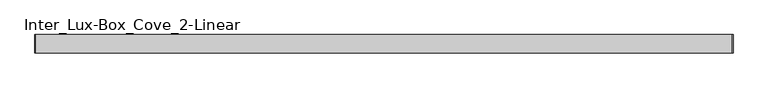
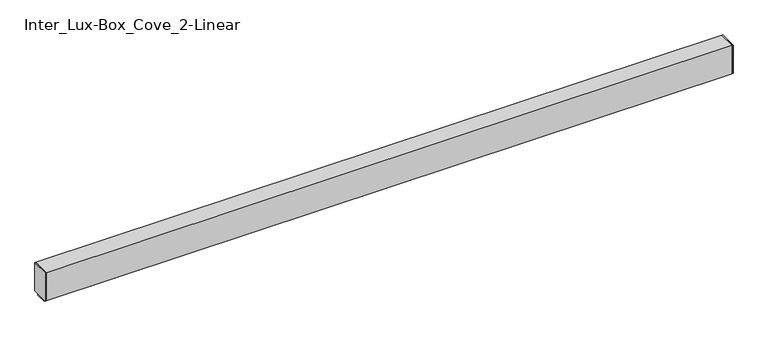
"""IFC4 building model written with IfcOpenShell, lengths in millimetres: light fixture geometry, Inter_Lux-Box_Cove_2-Linear : WG-BC2-96."""

from ifc_helpers import new_model, si_unit, frame, origin, origin_with_axes, place, context, project, spatial, polyline, outline, extrude, source, transform, mapped, element, save


def inter_lux_box_cove_2_linear_d6b674f3(model_context):
    return source(origin(), model_context, "Body", "SweptSolid", [
        extrude(outline(polyline([(28.5291428, 52.399339), (27.1145076, 53.3286003), (22.7583024, 99.2666021), (24.0177286, 99.9740852), (28.5291428, 52.399339)])), frame((-1216.025, 0.0, 0.0), z_axis=(1.0, 0.0, 0.0), x_axis=(0.0, 1.0, 0.0)), (0.0, 0.0, 1.0), 2432.05),
        extrude(outline(polyline([(1216.025, 19.05), (1216.025, -19.05), (-1216.025, -19.05), (-1216.025, 19.05), (1216.025, 19.05)])), origin_with_axes(), (0.0, 0.0, 1.0), 10.4825619),
        extrude(outline(polyline([(1219.2, 31.75), (1219.2, -31.75), (1216.025, -31.75), (1216.025, 31.75), (1219.2, 31.75)])), frame((0.0, 0.0, 10.31875), z_axis=(0.0, 0.0, 1.0), x_axis=(1.0, 0.0, 0.0)), (0.0, 0.0, 1.0), 105.3520075),
        extrude(outline(polyline([(29.52626, 51.7443416), (31.75, 13.49375), (30.1583865, 13.49375), (27.929581, 51.1979954), (8.296285, 64.0949328), (8.296285, 76.1922878), (12.3594897, 95.308163), (27.0595865, 103.5654863), (27.0595865, 112.4957575), (28.5835865, 112.4957575), (28.5835865, 102.5389575), (13.8539227, 94.2645637), (9.947285, 75.8852783), (9.947285, 64.605596), (29.52626, 51.7443416)])), frame((-1216.025, 0.0, 0.0), z_axis=(1.0, 0.0, 0.0), x_axis=(0.0, 1.0, 0.0)), (0.0, 0.0, 1.0), 2432.05),
        extrude(outline(polyline([(-31.75, 115.6707575), (31.75, 115.6707575), (31.75, 112.4957575), (27.0595865, 112.4957575), (27.0595865, 103.8140045), (23.8845865, 103.8140045), (23.8845865, 112.4957575), (-28.575, 112.4957575), (-28.575, 13.49375), (31.75, 13.49375), (31.75, 10.31875), (-31.75, 10.31875), (-31.75, 115.6707575)])), frame((-1216.025, 0.0, 0.0), z_axis=(1.0, 0.0, 0.0), x_axis=(0.0, 1.0, 0.0)), (0.0, 0.0, 1.0), 2432.05),
        extrude(outline(polyline([(-1219.2, -31.75), (-1219.2, 31.75), (-1216.025, 31.75), (-1216.025, -31.75), (-1219.2, -31.75)])), frame((0.0, 0.0, 10.31875), z_axis=(0.0, 0.0, 1.0), x_axis=(1.0, 0.0, 0.0)), (0.0, 0.0, 1.0), 105.3520075),
    ])


if __name__ == "__main__":
    model = new_model("IFC4")
    model_context = context("Model", 3, world=origin())
    ifc_project = project(units=[si_unit("LENGTHUNIT", "METRE", prefix="MILLI")], contexts=[model_context])
    site = spatial("IfcSite", under=ifc_project)
    building = spatial("IfcBuilding", under=site)
    placement = place(None, origin())
    inter_lux_box_cove_2_linear_shape = inter_lux_box_cove_2_linear_d6b674f3(model_context)
    element("IfcLightFixture", 1, ObjectType="Inter_Lux-Box_Cove_2-Linear : WG-BC2-96", at=placement, inside=building, context=model_context, shape_type="MappedRepresentation", body=[
        mapped(inter_lux_box_cove_2_linear_shape, transform((0.0, 0.0, 0.0), x_axis=(1.0, 0.0, 0.0), y_axis=(0.0, 1.0, 0.0), z_axis=(0.0, 0.0, 1.0))),
    ])
    save(model, "model.ifc")
